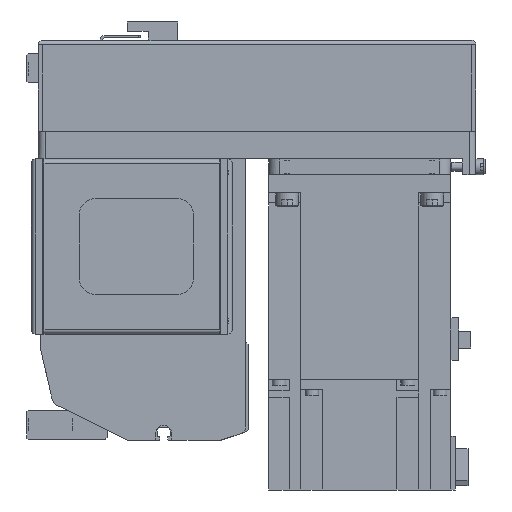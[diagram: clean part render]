
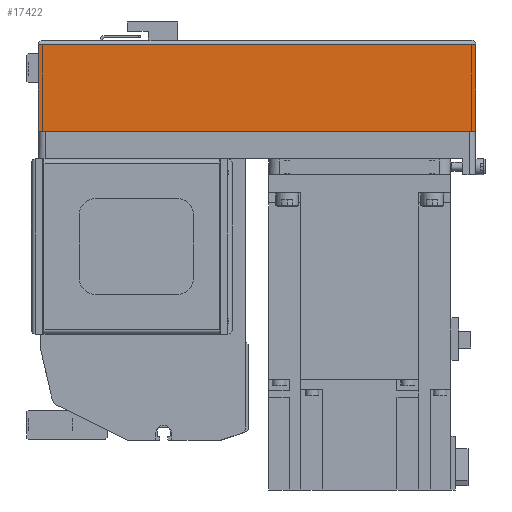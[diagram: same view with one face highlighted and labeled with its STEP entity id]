
A CAD part, left-side view. The second image highlights one B-rep face of the part: STEP entity #17422.
In plain terms, the highlighted planar face has unit normal (-1, 0, 0) as drawn and (0, -1, 0) by its records, which use the part's own axes.
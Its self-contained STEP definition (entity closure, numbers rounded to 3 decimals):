
#2748=ORIENTED_EDGE('',*,*,#7045,.F.);
#2749=ORIENTED_EDGE('',*,*,#7029,.F.);
#2750=ORIENTED_EDGE('',*,*,#7022,.T.);
#2751=ORIENTED_EDGE('',*,*,#7092,.T.);
#7022=EDGE_CURVE('',#9345,#9344,#11128,.T.);
#7029=EDGE_CURVE('',#9345,#9351,#11135,.T.);
#7045=EDGE_CURVE('',#9351,#9365,#11151,.T.);
#7092=EDGE_CURVE('',#9344,#9365,#11172,.T.);
#9344=VERTEX_POINT('',#26773);
#9345=VERTEX_POINT('',#26775);
#9351=VERTEX_POINT('',#26790);
#9365=VERTEX_POINT('',#26823);
#11128=LINE('',#26774,#12754);
#11135=LINE('',#26789,#12761);
#11151=LINE('',#26822,#12777);
#11172=LINE('',#26903,#12798);
#12754=VECTOR('',#21424,1000.);
#12761=VECTOR('',#21435,1000.);
#12777=VECTOR('',#21457,1000.);
#12798=VECTOR('',#21566,1000.);
#14242=EDGE_LOOP('',(#2748,#2749,#2750,#2751));
#15554=FACE_BOUND('',#14242,.T.);
#16697=PLANE('',#18685);
#17422=ADVANCED_FACE('',(#15554),#16697,.T.);
#18685=AXIS2_PLACEMENT_3D('',#26904,#21567,#21568);
#21424=DIRECTION('',(0.,0.,-1.));
#21435=DIRECTION('',(1.,0.,0.));
#21457=DIRECTION('',(0.,0.,-1.));
#21566=DIRECTION('',(1.,0.,0.));
#21567=DIRECTION('',(0.,-1.,0.));
#21568=DIRECTION('',(0.,0.,-1.));
#26773=CARTESIAN_POINT('',(-192.,-40.,-50.));
#26774=CARTESIAN_POINT('',(-192.,-40.,-12.1));
#26775=CARTESIAN_POINT('',(-192.,-40.,-12.1));
#26789=CARTESIAN_POINT('',(-192.,-40.,-12.1));
#26790=CARTESIAN_POINT('',(0.,-40.,-12.1));
#26822=CARTESIAN_POINT('',(0.,-40.,-12.1));
#26823=CARTESIAN_POINT('',(0.,-40.,-50.));
#26903=CARTESIAN_POINT('',(-192.,-40.,-50.));
#26904=CARTESIAN_POINT('',(-192.,-40.,-12.1));
